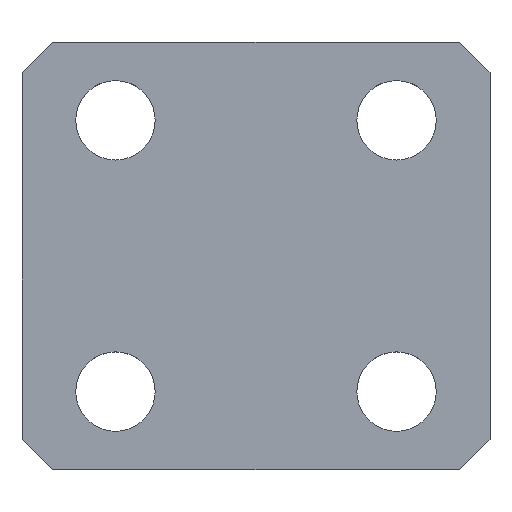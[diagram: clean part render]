
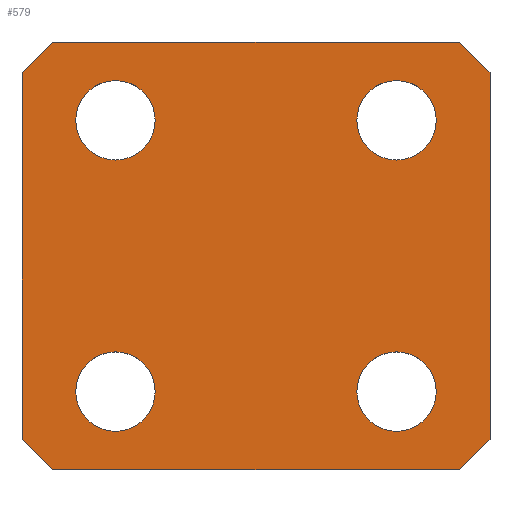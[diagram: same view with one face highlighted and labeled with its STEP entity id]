
A CAD part, top view. The second image highlights one B-rep face of the part: STEP entity #579.
In plain terms, the highlighted planar face has unit normal (0, 0, 1).
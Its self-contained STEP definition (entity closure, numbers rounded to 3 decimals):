
#57=CARTESIAN_POINT('Axis2P3D Location',(11.5,11.1,3.5)) ;
#61=CARTESIAN_POINT('Vertex',(14.75,11.1,3.5)) ;
#63=CARTESIAN_POINT('Vertex',(8.25,11.1,3.5)) ;
#92=CARTESIAN_POINT('Axis2P3D Location',(11.5,11.1,3.5)) ;
#114=CARTESIAN_POINT('Axis2P3D Location',(-11.5,-11.1,3.5)) ;
#118=CARTESIAN_POINT('Vertex',(-8.25,-11.1,3.5)) ;
#120=CARTESIAN_POINT('Vertex',(-14.75,-11.1,3.5)) ;
#149=CARTESIAN_POINT('Axis2P3D Location',(-11.5,-11.1,3.5)) ;
#171=CARTESIAN_POINT('Axis2P3D Location',(11.5,-11.1,3.5)) ;
#175=CARTESIAN_POINT('Vertex',(14.75,-11.1,3.5)) ;
#177=CARTESIAN_POINT('Vertex',(8.25,-11.1,3.5)) ;
#206=CARTESIAN_POINT('Axis2P3D Location',(11.5,-11.1,3.5)) ;
#228=CARTESIAN_POINT('Axis2P3D Location',(-11.5,11.1,3.5)) ;
#232=CARTESIAN_POINT('Vertex',(-8.25,11.1,3.5)) ;
#234=CARTESIAN_POINT('Vertex',(-14.75,11.1,3.5)) ;
#263=CARTESIAN_POINT('Axis2P3D Location',(-11.5,11.1,3.5)) ;
#285=CARTESIAN_POINT('Line Origine',(-17.9,16.25,3.5)) ;
#289=CARTESIAN_POINT('Vertex',(-19.15,15.,3.5)) ;
#291=CARTESIAN_POINT('Vertex',(-16.65,17.5,3.5)) ;
#325=CARTESIAN_POINT('Line Origine',(-19.15,0.,3.5)) ;
#329=CARTESIAN_POINT('Vertex',(-19.15,-15.,3.5)) ;
#356=CARTESIAN_POINT('Line Origine',(-17.9,-16.25,3.5)) ;
#360=CARTESIAN_POINT('Vertex',(-16.65,-17.5,3.5)) ;
#393=CARTESIAN_POINT('Vertex',(16.65,-17.5,3.5)) ;
#396=CARTESIAN_POINT('Line Origine',(0.,-17.5,3.5)) ;
#418=CARTESIAN_POINT('Line Origine',(17.9,-16.25,3.5)) ;
#422=CARTESIAN_POINT('Vertex',(19.15,-15.,3.5)) ;
#455=CARTESIAN_POINT('Vertex',(16.65,17.5,3.5)) ;
#463=CARTESIAN_POINT('Line Origine',(0.,17.5,3.5)) ;
#480=CARTESIAN_POINT('Line Origine',(19.15,0.,3.5)) ;
#484=CARTESIAN_POINT('Vertex',(19.15,15.,3.5)) ;
#543=CARTESIAN_POINT('Axis2P3D Location',(0.,0.,3.5)) ;
#548=CARTESIAN_POINT('Line Origine',(17.9,16.25,3.5)) ;
#58=DIRECTION('Axis2P3D Direction',(0.,0.,-1.)) ;
#93=DIRECTION('Axis2P3D Direction',(0.,0.,-1.)) ;
#115=DIRECTION('Axis2P3D Direction',(0.,0.,-1.)) ;
#150=DIRECTION('Axis2P3D Direction',(0.,0.,-1.)) ;
#172=DIRECTION('Axis2P3D Direction',(0.,0.,-1.)) ;
#207=DIRECTION('Axis2P3D Direction',(0.,0.,-1.)) ;
#229=DIRECTION('Axis2P3D Direction',(0.,0.,-1.)) ;
#264=DIRECTION('Axis2P3D Direction',(0.,0.,-1.)) ;
#286=DIRECTION('Vector Direction',(0.707,0.707,0.)) ;
#326=DIRECTION('Vector Direction',(0.,-1.,0.)) ;
#357=DIRECTION('Vector Direction',(0.707,-0.707,0.)) ;
#397=DIRECTION('Vector Direction',(-1.,0.,0.)) ;
#419=DIRECTION('Vector Direction',(-0.707,-0.707,0.)) ;
#464=DIRECTION('Vector Direction',(1.,0.,0.)) ;
#481=DIRECTION('Vector Direction',(0.,1.,0.)) ;
#544=DIRECTION('Axis2P3D Direction',(0.,0.,1.)) ;
#545=DIRECTION('Axis2P3D XDirection',(1.,0.,0.)) ;
#549=DIRECTION('Vector Direction',(0.707,-0.707,0.)) ;
#59=AXIS2_PLACEMENT_3D('Circle Axis2P3D',#57,#58,$) ;
#94=AXIS2_PLACEMENT_3D('Circle Axis2P3D',#92,#93,$) ;
#116=AXIS2_PLACEMENT_3D('Circle Axis2P3D',#114,#115,$) ;
#151=AXIS2_PLACEMENT_3D('Circle Axis2P3D',#149,#150,$) ;
#173=AXIS2_PLACEMENT_3D('Circle Axis2P3D',#171,#172,$) ;
#208=AXIS2_PLACEMENT_3D('Circle Axis2P3D',#206,#207,$) ;
#230=AXIS2_PLACEMENT_3D('Circle Axis2P3D',#228,#229,$) ;
#265=AXIS2_PLACEMENT_3D('Circle Axis2P3D',#263,#264,$) ;
#546=AXIS2_PLACEMENT_3D('Plane Axis2P3D',#543,#544,#545) ;
#554=ORIENTED_EDGE('',*,*,#467,.T.) ;
#555=ORIENTED_EDGE('',*,*,#293,.F.) ;
#556=ORIENTED_EDGE('',*,*,#331,.T.) ;
#557=ORIENTED_EDGE('',*,*,#362,.F.) ;
#558=ORIENTED_EDGE('',*,*,#400,.T.) ;
#559=ORIENTED_EDGE('',*,*,#424,.F.) ;
#560=ORIENTED_EDGE('',*,*,#486,.T.) ;
#561=ORIENTED_EDGE('',*,*,#552,.F.) ;
#564=ORIENTED_EDGE('',*,*,#96,.F.) ;
#565=ORIENTED_EDGE('',*,*,#65,.F.) ;
#568=ORIENTED_EDGE('',*,*,#267,.F.) ;
#569=ORIENTED_EDGE('',*,*,#236,.F.) ;
#572=ORIENTED_EDGE('',*,*,#210,.F.) ;
#573=ORIENTED_EDGE('',*,*,#179,.F.) ;
#576=ORIENTED_EDGE('',*,*,#153,.F.) ;
#577=ORIENTED_EDGE('',*,*,#122,.F.) ;
#566=FACE_BOUND('',#563,.T.) ;
#570=FACE_BOUND('',#567,.T.) ;
#574=FACE_BOUND('',#571,.T.) ;
#578=FACE_BOUND('',#575,.T.) ;
#287=VECTOR('Line Direction',#286,1.) ;
#327=VECTOR('Line Direction',#326,1.) ;
#358=VECTOR('Line Direction',#357,1.) ;
#398=VECTOR('Line Direction',#397,1.) ;
#420=VECTOR('Line Direction',#419,1.) ;
#465=VECTOR('Line Direction',#464,1.) ;
#482=VECTOR('Line Direction',#481,1.) ;
#550=VECTOR('Line Direction',#549,1.) ;
#579=ADVANCED_FACE('\X2\96F64EF651E04F554F53\X0\',(#562,#566,#570,#574,#578),#547,.T.) ;
#60=CIRCLE('generated circle',#59,3.25) ;
#95=CIRCLE('generated circle',#94,3.25) ;
#117=CIRCLE('generated circle',#116,3.25) ;
#152=CIRCLE('generated circle',#151,3.25) ;
#174=CIRCLE('generated circle',#173,3.25) ;
#209=CIRCLE('generated circle',#208,3.25) ;
#231=CIRCLE('generated circle',#230,3.25) ;
#266=CIRCLE('generated circle',#265,3.25) ;
#65=EDGE_CURVE('',#62,#64,#60,.F.) ;
#96=EDGE_CURVE('',#64,#62,#95,.F.) ;
#122=EDGE_CURVE('',#119,#121,#117,.F.) ;
#153=EDGE_CURVE('',#121,#119,#152,.F.) ;
#179=EDGE_CURVE('',#176,#178,#174,.F.) ;
#210=EDGE_CURVE('',#178,#176,#209,.F.) ;
#236=EDGE_CURVE('',#233,#235,#231,.F.) ;
#267=EDGE_CURVE('',#235,#233,#266,.F.) ;
#293=EDGE_CURVE('',#290,#292,#288,.T.) ;
#331=EDGE_CURVE('',#290,#330,#328,.T.) ;
#362=EDGE_CURVE('',#361,#330,#359,.F.) ;
#400=EDGE_CURVE('',#361,#394,#399,.F.) ;
#424=EDGE_CURVE('',#423,#394,#421,.T.) ;
#467=EDGE_CURVE('',#456,#292,#466,.F.) ;
#486=EDGE_CURVE('',#423,#485,#483,.T.) ;
#552=EDGE_CURVE('',#456,#485,#551,.T.) ;
#553=EDGE_LOOP('',(#554,#555,#556,#557,#558,#559,#560,#561)) ;
#563=EDGE_LOOP('',(#564,#565)) ;
#567=EDGE_LOOP('',(#568,#569)) ;
#571=EDGE_LOOP('',(#572,#573)) ;
#575=EDGE_LOOP('',(#576,#577)) ;
#562=FACE_OUTER_BOUND('',#553,.T.) ;
#288=LINE('Line',#285,#287) ;
#328=LINE('Line',#325,#327) ;
#359=LINE('Line',#356,#358) ;
#399=LINE('Line',#396,#398) ;
#421=LINE('Line',#418,#420) ;
#466=LINE('Line',#463,#465) ;
#483=LINE('Line',#480,#482) ;
#551=LINE('Line',#548,#550) ;
#547=PLANE('Plane',#546) ;
#62=VERTEX_POINT('',#61) ;
#64=VERTEX_POINT('',#63) ;
#119=VERTEX_POINT('',#118) ;
#121=VERTEX_POINT('',#120) ;
#176=VERTEX_POINT('',#175) ;
#178=VERTEX_POINT('',#177) ;
#233=VERTEX_POINT('',#232) ;
#235=VERTEX_POINT('',#234) ;
#290=VERTEX_POINT('',#289) ;
#292=VERTEX_POINT('',#291) ;
#330=VERTEX_POINT('',#329) ;
#361=VERTEX_POINT('',#360) ;
#394=VERTEX_POINT('',#393) ;
#423=VERTEX_POINT('',#422) ;
#456=VERTEX_POINT('',#455) ;
#485=VERTEX_POINT('',#484) ;
